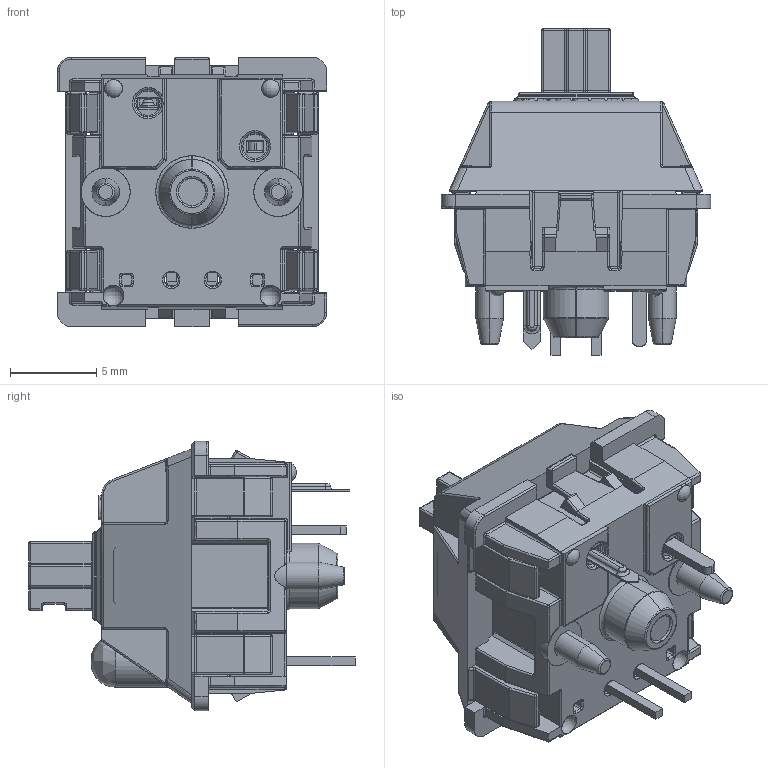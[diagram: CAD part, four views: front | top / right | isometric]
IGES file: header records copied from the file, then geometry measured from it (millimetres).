
Start section: SolidWorks IGES file using analytic representation for surfaces
Global section: file name: F:\Aamish Projects\Extra\Keyshot\MX Keys\MX Series-Cherry Key_IGS.IGS; native system: SolidWorks 2018; preprocessor: SolidWorks 2018; author: Aamish; date: 181105.150627; units: millimetre
Bounding box: 15.6 x 18.9 x 15.6 mm (x, y, z)
Surface area: 2742.8 mm2 (no closed solid volume)
Topology: 0 solids, 0 shells, 1666 faces, 10335 edges, 10218 vertices
Faces by surface type: revolution 834, bspline 832
